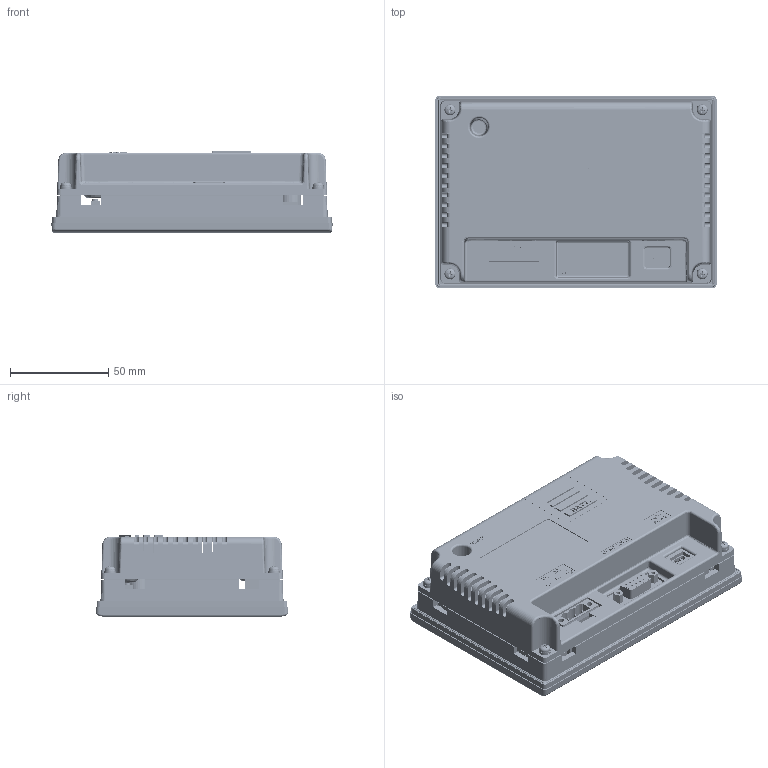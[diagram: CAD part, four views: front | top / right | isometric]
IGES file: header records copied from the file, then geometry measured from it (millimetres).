
Global section: file name: No Iges File Name specified; native system: AutoDesk Inventor R12.0; preprocessor: AutoDesk Inventor Iges Exporter R12.0; author: No Author specified; organization: No Organization specified; date: 20140318.115909; units: millimetre
Bounding box: 143 x 98.1 x 41.4 mm (x, y, z)
Volume: 173204 mm3; surface area: 139236.9 mm2
Topology: 1 solids, 2 shells, 15909 faces, 46743 edges, 31064 vertices
Faces by surface type: plane 14575, bspline 543, cylinder 345, revolution 338, cone 64, torus 38, sphere 6
